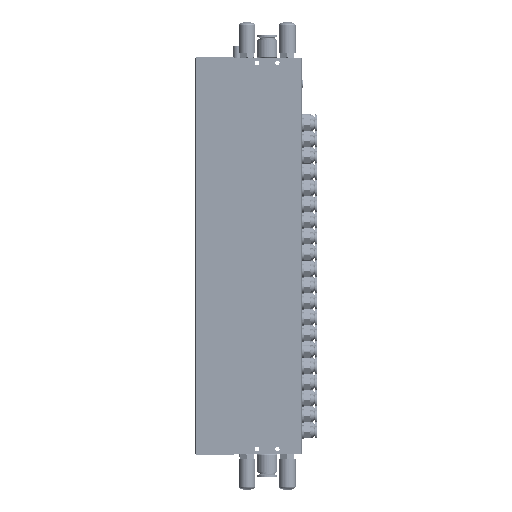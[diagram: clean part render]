
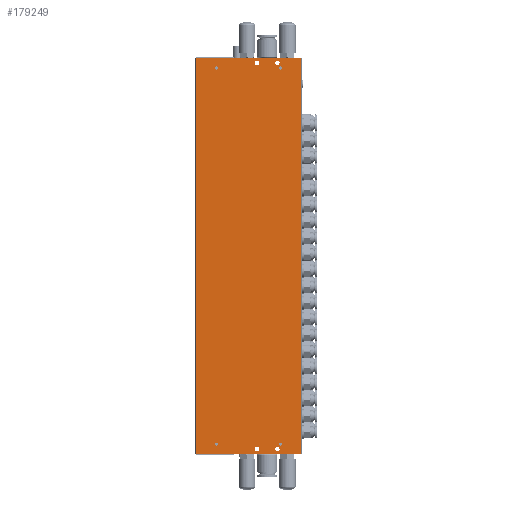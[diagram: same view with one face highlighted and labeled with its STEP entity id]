
A CAD part, front view. The second image highlights one B-rep face of the part: STEP entity #179249.
In plain terms, the highlighted planar face has unit normal (0, -1, 0).
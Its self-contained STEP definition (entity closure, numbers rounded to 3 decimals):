
#111411=LINE('',#590701,#135749);
#111418=LINE('',#590827,#135756);
#111419=LINE('',#590829,#135757);
#111420=LINE('',#590831,#135758);
#111421=LINE('',#590834,#135759);
#111422=LINE('',#590838,#135760);
#135749=VECTOR('',#474440,1.);
#135756=VECTOR('',#474477,1.);
#135757=VECTOR('',#474480,1.);
#135758=VECTOR('',#474481,1.);
#135759=VECTOR('',#474484,1.);
#135760=VECTOR('',#474487,1.);
#166913=PLANE('',#431350);
#174210=FACE_BOUND('',#216181,.T.);
#174211=FACE_BOUND('',#216182,.T.);
#174212=FACE_BOUND('',#216183,.T.);
#174213=FACE_BOUND('',#216184,.T.);
#174214=FACE_BOUND('',#216185,.T.);
#174215=FACE_BOUND('',#216186,.T.);
#174216=FACE_BOUND('',#216187,.T.);
#174217=FACE_BOUND('',#216188,.T.);
#174218=FACE_BOUND('',#216189,.T.);
#179249=ADVANCED_FACE('',(#174210,#174211,#174212,#174213,#174214,#174215,
#174216,#174217,#174218),#166913,.T.);
#216181=EDGE_LOOP('',(#262840,#262841,#262842,#262843));
#216182=EDGE_LOOP('',(#262844));
#216183=EDGE_LOOP('',(#262845));
#216184=EDGE_LOOP('',(#262846));
#216185=EDGE_LOOP('',(#262847));
#216186=EDGE_LOOP('',(#262848,#262849));
#216187=EDGE_LOOP('',(#262850,#262851));
#216188=EDGE_LOOP('',(#262852));
#216189=EDGE_LOOP('',(#262853));
#236694=CIRCLE('',#431321,1.65);
#236695=CIRCLE('',#431323,2.25);
#236697=CIRCLE('',#431326,2.25);
#236708=CIRCLE('',#431345,1.65);
#236709=CIRCLE('',#431346,1.65);
#236710=CIRCLE('',#431347,1.65);
#236711=CIRCLE('',#431348,2.25);
#236712=CIRCLE('',#431349,2.25);
#262840=ORIENTED_EDGE('',*,*,#383411,.T.);
#262841=ORIENTED_EDGE('',*,*,#383412,.T.);
#262842=ORIENTED_EDGE('',*,*,#383413,.T.);
#262843=ORIENTED_EDGE('',*,*,#383394,.F.);
#262844=ORIENTED_EDGE('',*,*,#383392,.F.);
#262845=ORIENTED_EDGE('',*,*,#383390,.F.);
#262846=ORIENTED_EDGE('',*,*,#383414,.T.);
#262847=ORIENTED_EDGE('',*,*,#383389,.T.);
#262848=ORIENTED_EDGE('',*,*,#383415,.F.);
#262849=ORIENTED_EDGE('',*,*,#383416,.F.);
#262850=ORIENTED_EDGE('',*,*,#383417,.F.);
#262851=ORIENTED_EDGE('',*,*,#383418,.F.);
#262852=ORIENTED_EDGE('',*,*,#383419,.F.);
#262853=ORIENTED_EDGE('',*,*,#383420,.F.);
#351738=VERTEX_POINT('',#590689);
#351739=VERTEX_POINT('',#590692);
#351741=VERTEX_POINT('',#590697);
#351743=VERTEX_POINT('',#590702);
#351744=VERTEX_POINT('',#590703);
#351758=VERTEX_POINT('',#590826);
#351759=VERTEX_POINT('',#590830);
#351760=VERTEX_POINT('',#590833);
#351761=VERTEX_POINT('',#590835);
#351762=VERTEX_POINT('',#590836);
#351763=VERTEX_POINT('',#590839);
#351764=VERTEX_POINT('',#590840);
#351765=VERTEX_POINT('',#590843);
#351766=VERTEX_POINT('',#590845);
#383389=EDGE_CURVE('',#351738,#351738,#236694,.T.);
#383390=EDGE_CURVE('',#351739,#351739,#236695,.T.);
#383392=EDGE_CURVE('',#351741,#351741,#236697,.T.);
#383394=EDGE_CURVE('',#351743,#351744,#111411,.T.);
#383411=EDGE_CURVE('',#351743,#351758,#111418,.T.);
#383412=EDGE_CURVE('',#351758,#351759,#111419,.T.);
#383413=EDGE_CURVE('',#351759,#351744,#111420,.T.);
#383414=EDGE_CURVE('',#351760,#351760,#236708,.T.);
#383415=EDGE_CURVE('',#351761,#351762,#111421,.T.);
#383416=EDGE_CURVE('',#351762,#351761,#236709,.T.);
#383417=EDGE_CURVE('',#351763,#351764,#111422,.T.);
#383418=EDGE_CURVE('',#351764,#351763,#236710,.T.);
#383419=EDGE_CURVE('',#351765,#351765,#236711,.T.);
#383420=EDGE_CURVE('',#351766,#351766,#236712,.T.);
#431321=AXIS2_PLACEMENT_3D('',#590688,#474424,#474425);
#431323=AXIS2_PLACEMENT_3D('',#590691,#474428,#474429);
#431326=AXIS2_PLACEMENT_3D('',#590696,#474434,#474435);
#431345=AXIS2_PLACEMENT_3D('',#590832,#474482,#474483);
#431346=AXIS2_PLACEMENT_3D('',#590837,#474485,#474486);
#431347=AXIS2_PLACEMENT_3D('',#590841,#474488,#474489);
#431348=AXIS2_PLACEMENT_3D('',#590842,#474490,#474491);
#431349=AXIS2_PLACEMENT_3D('',#590844,#474492,#474493);
#431350=AXIS2_PLACEMENT_3D('',#590846,#474494,#474495);
#474424=DIRECTION('',(0.,1.,0.));
#474425=DIRECTION('',(0.,0.,-1.));
#474428=DIRECTION('',(0.,-1.,0.));
#474429=DIRECTION('',(0.,0.,-1.));
#474434=DIRECTION('',(0.,-1.,0.));
#474435=DIRECTION('',(0.,0.,-1.));
#474440=DIRECTION('',(1.,0.,0.));
#474477=DIRECTION('',(0.,0.,-1.));
#474480=DIRECTION('',(1.,0.,0.));
#474481=DIRECTION('',(0.,0.,1.));
#474482=DIRECTION('',(0.,1.,0.));
#474483=DIRECTION('',(0.,0.,-1.));
#474484=DIRECTION('',(-1.,0.,0.));
#474485=DIRECTION('',(0.,-1.,0.));
#474486=DIRECTION('',(0.,0.,1.));
#474487=DIRECTION('',(-1.,0.,0.));
#474488=DIRECTION('',(0.,-1.,0.));
#474489=DIRECTION('',(0.,0.,1.));
#474490=DIRECTION('',(0.,-1.,0.));
#474491=DIRECTION('',(0.,0.,-1.));
#474492=DIRECTION('',(0.,-1.,0.));
#474493=DIRECTION('',(0.,0.,-1.));
#474494=DIRECTION('',(0.,-1.,0.));
#474495=DIRECTION('',(0.,0.,-1.));
#590688=CARTESIAN_POINT('',(31.5,-33.8,62.));
#590689=CARTESIAN_POINT('',(31.5,-33.8,60.35));
#590691=CARTESIAN_POINT('',(28.5,-33.8,67.));
#590692=CARTESIAN_POINT('',(28.5,-33.8,64.75));
#590696=CARTESIAN_POINT('',(8.5,-33.8,67.));
#590697=CARTESIAN_POINT('',(8.5,-33.8,64.75));
#590701=CARTESIAN_POINT('',(-52.5,-33.8,72.));
#590702=CARTESIAN_POINT('',(-51.5,-33.8,72.));
#590703=CARTESIAN_POINT('',(51.5,-33.8,72.));
#590826=CARTESIAN_POINT('',(-51.5,-33.8,-320.));
#590827=CARTESIAN_POINT('',(-51.5,-33.8,-56.));
#590829=CARTESIAN_POINT('',(-52.5,-33.8,-320.));
#590830=CARTESIAN_POINT('',(51.5,-33.8,-320.));
#590831=CARTESIAN_POINT('',(51.5,-33.8,-56.));
#590832=CARTESIAN_POINT('',(-31.5,-33.8,62.));
#590833=CARTESIAN_POINT('',(-31.5,-33.8,60.35));
#590834=CARTESIAN_POINT('',(-52.5,-33.8,-308.55));
#590835=CARTESIAN_POINT('',(32.287,-33.8,-308.55));
#590836=CARTESIAN_POINT('',(30.713,-33.8,-308.55));
#590837=CARTESIAN_POINT('',(31.5,-33.8,-310.));
#590838=CARTESIAN_POINT('',(-52.5,-33.8,-308.55));
#590839=CARTESIAN_POINT('',(-30.713,-33.8,-308.55));
#590840=CARTESIAN_POINT('',(-32.287,-33.8,-308.55));
#590841=CARTESIAN_POINT('',(-31.5,-33.8,-310.));
#590842=CARTESIAN_POINT('',(8.5,-33.8,-315.));
#590843=CARTESIAN_POINT('',(8.5,-33.8,-317.25));
#590844=CARTESIAN_POINT('',(28.5,-33.8,-315.));
#590845=CARTESIAN_POINT('',(28.5,-33.8,-317.25));
#590846=CARTESIAN_POINT('',(-52.5,-33.8,-56.));
